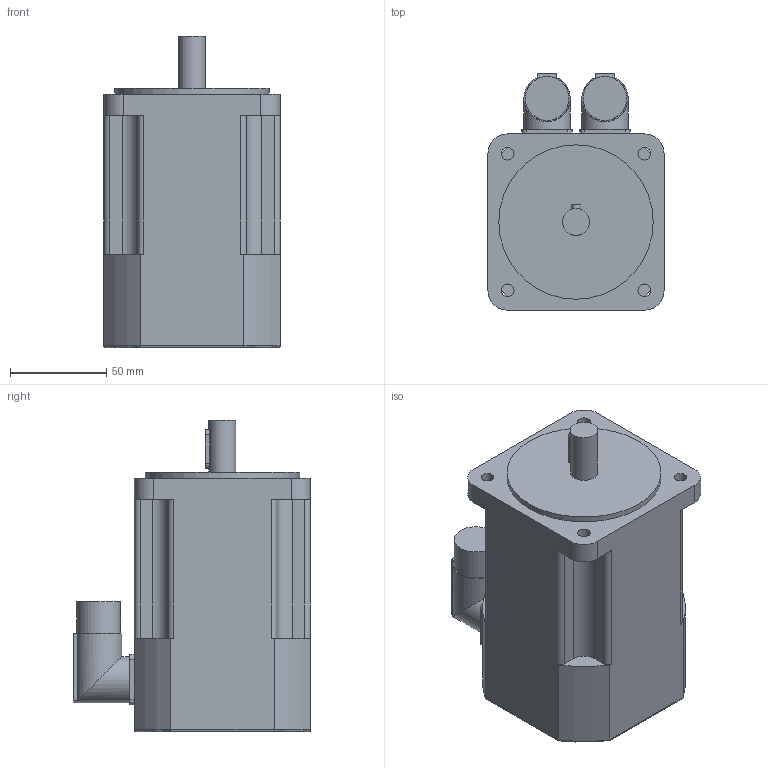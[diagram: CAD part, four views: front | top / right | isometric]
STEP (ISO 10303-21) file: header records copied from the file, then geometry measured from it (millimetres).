
FILE_DESCRIPTION(/* description */ (''),/* implementation_level */ '2;1');
FILE_NAME(/* name */ '\\Lafnas01\disegni\Archivi Lafert\3D\CAD 3D\MODELLI\Assiemi clienti\Serad\Modelli 3D Serad\B56Q\Encoder\Enc Without Brake\B56E3Qxx6ARx2033.ipt.stp',/* time_stamp */ '2015-09-07T10:50:12+02:00',/* author */ ('Pastrello Ylenia'),/* organization */ (''),/* preprocessor_version */ 'ST-DEVELOPER v15.6',/* originating_system */ 'Autodesk Inventor 2015',/* authorisation */ '');
FILE_SCHEMA (('AUTOMOTIVE_DESIGN { 1 0 10303 214 3 1 1 }'));
Length unit declared in the file: millimetre
Products named in the file (1): B56E3Qxx6ARx2033
Bounding box: 91.3 x 122.8 x 161.5 mm (x, y, z)
Volume: 1052166.8 mm3; surface area: 73479.5 mm2
Topology: 1 solids, 1 shells, 99 faces, 260 edges, 170 vertices
Faces by surface type: plane 49, cylinder 46, torus 4
Full cylindrical faces by diameter (mm): 6.5 x4, 14 x1, 22.7 x2, 24 x2, 80 x1
Entity records: 3176 total; most frequent: CARTESIAN_POINT 658, DIRECTION 534, ORIENTED_EDGE 500, EDGE_CURVE 250, AXIS2_PLACEMENT_3D 194, VERTEX_POINT 170, LINE 146, VECTOR 146
